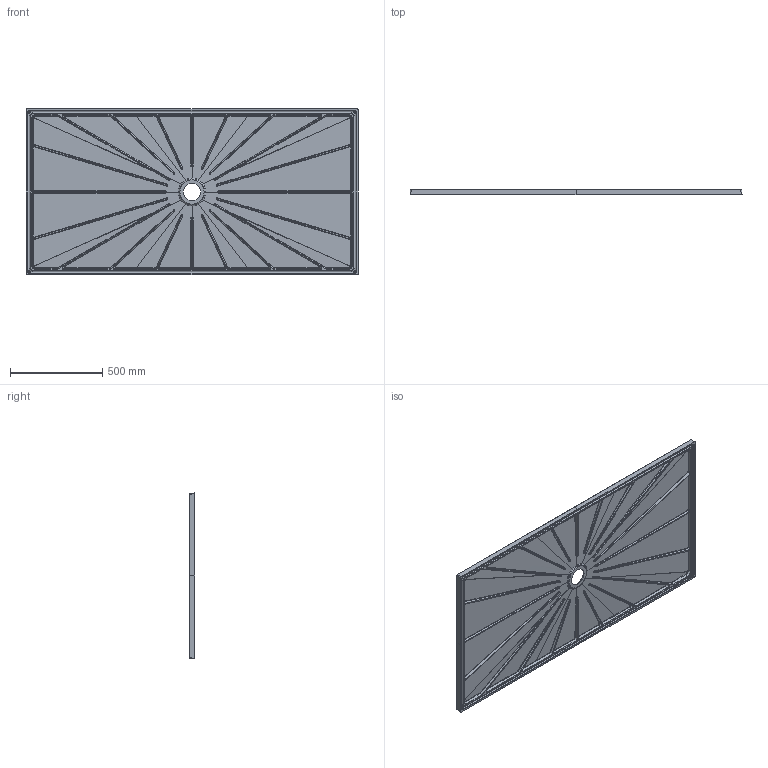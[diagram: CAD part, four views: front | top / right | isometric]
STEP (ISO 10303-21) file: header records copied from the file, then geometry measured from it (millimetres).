
FILE_DESCRIPTION(('CATIA V5 STEP Exchange'),'2;1');
FILE_NAME('C:\Users\167035\Downloads\3D ART1094.stp','2025-01-21T10:35:41+00:00',('none'),('none'),'CATIA Version 5 Release 19 SP 5 (IN-10)','CATIA V5 STEP AP214','none');
FILE_SCHEMA(('AUTOMOTIVE_DESIGN { 1 0 10303 214 1 1 1 1 }'));
Products named in the file (1): 180X90 H3 LISCIO
Bounding box: 1800 x 30.5 x 900 mm (x, y, z)
Volume: 26007371.2 mm3; surface area: 3689172.8 mm2
Topology: 1 solids, 1 shells, 816 faces, 1990 edges, 1126 vertices
Faces by surface type: bspline 512, cylinder 170, plane 78, sphere 28, torus 20, cone 8
Entity records: 82995 total; most frequent: CARTESIAN_POINT 69157, ORIENTED_EDGE 3872, EDGE_CURVE 1936, B_SPLINE_CURVE_WITH_KNOTS 1467, VERTEX_POINT 1126, DIRECTION 1005, EDGE_LOOP 822, ADVANCED_FACE 816
